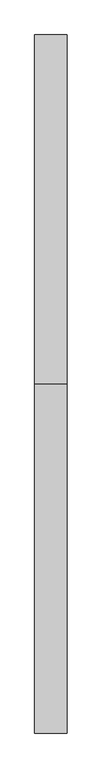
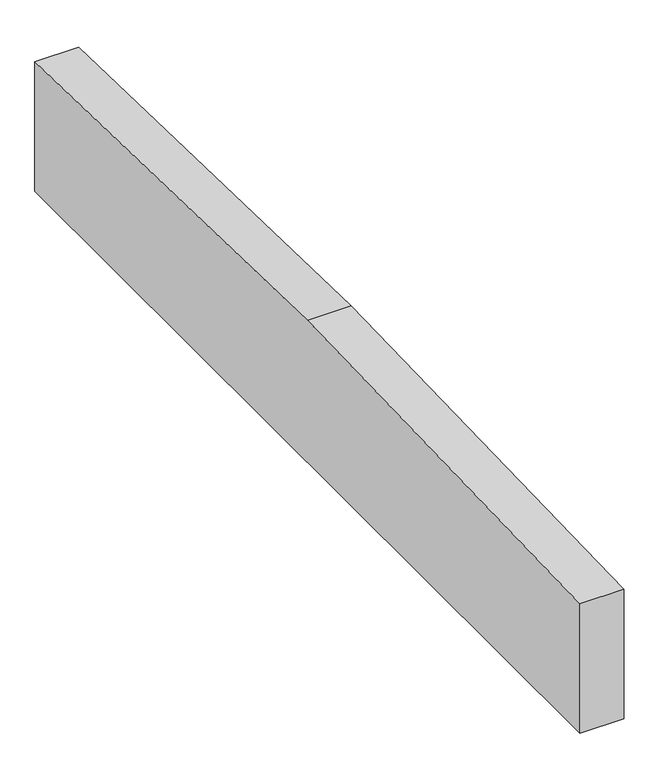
"""IFC4 building model written with IfcOpenShell, lengths in millimetres: proxy geometry, Mur garde grève C0 : mur garde grève."""

import ifcopenshell
import ifcopenshell.guid

model = None  # the IFC model being written
_history = None  # IfcOwnerHistory: only IFC2X3 demands one
_inside = {}  # id of a spatial element -> (the spatial element, [elements in it])
_under = {}  # id of a project, library or spatial element -> (it, [spatial elements below it])
_declared = {}  # id of a project -> (the project, [libraries it declares])
_typed = {}  # id of a type object -> (the type object, [elements of that type])
_made_of = {}  # id of a material, layer set ... -> (it, [elements and type objects made of it])


def new_model(schema):
    """Start an empty IFC model of exactly this schema.

    Asked for "IFC4X3", IfcOpenShell would pick the latest addendum, in which some entities
    have other attributes; the version numbers below select the first issue.
    IFC2X3 requires an IfcOwnerHistory on every rooted entity: one is made here for all.
    """
    global model, _history
    if schema == "IFC4X3":
        model = ifcopenshell.file(schema_version=(4, 3, 0, 0))
    else:
        model = ifcopenshell.file(schema=schema)
    _inside.clear()
    _under.clear()
    _declared.clear()
    _typed.clear()
    _made_of.clear()
    _history = None
    if model.schema == "IFC2X3":
        org = make("IfcOrganization", Name="unknown")
        user = make(
            "IfcPersonAndOrganization",
            ThePerson=make("IfcPerson", FamilyName="unknown"),
            TheOrganization=org,
        )
        app = make(
            "IfcApplication",
            ApplicationDeveloper=org,
            Version="unknown",
            ApplicationFullName="unknown",
            ApplicationIdentifier="unknown",
        )
        _history = make(
            "IfcOwnerHistory",
            OwningUser=user,
            OwningApplication=app,
            ChangeAction="ADDED",
            CreationDate=0,
        )
    return model


def make(cls, **values):
    """One entity of the class cls with the attributes given. An attribute that is None is left unset."""
    return model.create_entity(
        cls, **{name: value for name, value in values.items() if value is not None}
    )


def rooted(cls, **values):
    """An entity with a GlobalId (a new one), such as an element, a storey or a relation."""
    return make(cls, GlobalId=ifcopenshell.guid.new(), OwnerHistory=_history, **values)


def si_unit(unit_type, name, prefix=None):
    """IfcSIUnit, for example si_unit("LENGTHUNIT", "METRE", prefix="MILLI")."""
    return make("IfcSIUnit", UnitType=unit_type, Prefix=prefix, Name=name)


def assignment(units):
    """IfcUnitAssignment: the units of a project."""
    return None if units is None else make("IfcUnitAssignment", Units=units)


def point(xyz):
    """IfcCartesianPoint."""
    return None if xyz is None else make("IfcCartesianPoint", Coordinates=xyz)


def direction(xyz):
    """IfcDirection."""
    return None if xyz is None else make("IfcDirection", DirectionRatios=xyz)


def frame(location, z_axis=None, x_axis=None):
    """IfcAxis2Placement3D, a coordinate frame: its origin and axes. An axis left out is left unset."""
    return make(
        "IfcAxis2Placement3D",
        Location=point(location),
        Axis=direction(z_axis),
        RefDirection=direction(x_axis),
    )


def origin():
    """The frame at (0, 0, 0) with its axes left unset."""
    return frame((0.0, 0.0, 0.0))


def place(relative_to, where):
    """IfcLocalPlacement: puts the frame where relative to a parent placement (None: the world)."""
    return make(
        "IfcLocalPlacement", PlacementRelTo=relative_to, RelativePlacement=where
    )


def context(
    kind, dimensions, precision=None, world=None, true_north=None, identifier=None
):
    """IfcGeometricRepresentationContext, for example the 3D "Model" context."""
    return make(
        "IfcGeometricRepresentationContext",
        ContextIdentifier=identifier,
        ContextType=kind,
        CoordinateSpaceDimension=dimensions,
        Precision=precision,
        WorldCoordinateSystem=world,
        TrueNorth=true_north,
    )


def project(units=None, contexts=None):
    """IfcProject with its units and contexts."""
    return rooted(
        "IfcProject",
        Name="project",
        RepresentationContexts=contexts,
        UnitsInContext=assignment(units),
    )


def spatial(cls, under=None, at=None, **own):
    """A site, building, storey or space (cls), placed at a placement, below another one or the project."""
    s = rooted(cls, ObjectPlacement=at, **own)
    if under is not None:
        _under.setdefault(under.id(), (under, []))[1].append(s)
    return s


def polyline(points):
    """IfcPolyline through the points."""
    return make("IfcPolyline", Points=[point(p) for p in points])


def outline(outer, holes=None, kind="AREA"):
    """IfcArbitraryClosedProfileDef: a profile drawn as a closed curve; with holes, ...WithVoids."""
    if holes is None:
        return make("IfcArbitraryClosedProfileDef", ProfileType=kind, OuterCurve=outer)
    return make(
        "IfcArbitraryProfileDefWithVoids",
        ProfileType=kind,
        OuterCurve=outer,
        InnerCurves=holes,
    )


def extrude(swept, where, along, depth):
    """IfcExtrudedAreaSolid: the profile swept, set in the frame where, extruded along a direction by depth."""
    return make(
        "IfcExtrudedAreaSolid",
        SweptArea=swept,
        Position=where,
        ExtrudedDirection=direction(along),
        Depth=depth,
    )


def shape(context_of_items, identifier, shape_type, items):
    """IfcShapeRepresentation: the items that make up one representation, for example the "Body"."""
    return make(
        "IfcShapeRepresentation",
        ContextOfItems=context_of_items,
        RepresentationIdentifier=identifier,
        RepresentationType=shape_type,
        Items=items,
    )


def source(mapping_origin, context_of_items, identifier, shape_type, items):
    """IfcRepresentationMap: a shape defined once, which mapped items show again and again."""
    return make(
        "IfcRepresentationMap",
        MappingOrigin=mapping_origin,
        MappedRepresentation=shape(context_of_items, identifier, shape_type, items),
    )


def transform(
    local_origin,
    x_axis=None,
    y_axis=None,
    z_axis=None,
    scale=None,
    scale2=None,
    scale3=None,
    uniform=True,
):
    """IfcCartesianTransformationOperator3D, or its non-uniform kind. x_axis, y_axis, z_axis: its Axis1, 2, 3."""
    if uniform:
        return make(
            "IfcCartesianTransformationOperator3D",
            Axis1=direction(x_axis),
            Axis2=direction(y_axis),
            LocalOrigin=point(local_origin),
            Scale=scale,
            Axis3=direction(z_axis),
        )
    return make(
        "IfcCartesianTransformationOperator3DnonUniform",
        Axis1=direction(x_axis),
        Axis2=direction(y_axis),
        LocalOrigin=point(local_origin),
        Scale=scale,
        Axis3=direction(z_axis),
        Scale2=scale2,
        Scale3=scale3,
    )


def mapped(mapping_source, mapping_target):
    """IfcMappedItem: shows the shape of a source again, moved by a transform."""
    return make(
        "IfcMappedItem", MappingSource=mapping_source, MappingTarget=mapping_target
    )


def made_of(thing, what):
    """Note that an element or type object is made of a material, layer set ...; save() writes the relation."""
    if what is not None:
        _made_of.setdefault(what.id(), (what, []))[1].append(thing)
    return thing


def element(
    cls,
    number,
    at=None,
    inside=None,
    cuts=None,
    type_object=None,
    material=None,
    context=None,
    identifier="Body",
    shape_type=None,
    held_by="IfcProductDefinitionShape",
    body=None,
    shapes=None,
    **own,
):
    """One element of the class cls, such as IfcWall. Its Tag is "e" and its number.

    at: its placement. inside: the storey or other place that contains it. cuts: it is an
    opening in that element (IfcRelVoidsElement). A single representation is given by context,
    identifier, shape_type and body (its items); several are given by shapes. held_by: the class
    of the entity that holds the representations. save() writes the other relations.
    """
    e = rooted(cls, Tag="e%d" % number, ObjectPlacement=at, **own)
    if body is not None:
        shapes = [shape(context, identifier, shape_type, body)]
    if shapes is not None:
        e.Representation = make(held_by, Representations=shapes)
    if inside is not None:
        _inside.setdefault(inside.id(), (inside, []))[1].append(e)
    if cuts is not None:
        rooted(
            "IfcRelVoidsElement", RelatingBuildingElement=cuts, RelatedOpeningElement=e
        )
    if type_object is not None:
        _typed.setdefault(type_object.id(), (type_object, []))[1].append(e)
    return made_of(e, material)


def aggregate(whole, parts):
    """IfcRelAggregates: a whole, such as a stair, and the parts it consists of."""
    return rooted("IfcRelAggregates", RelatingObject=whole, RelatedObjects=parts)


def save(model, path):
    """Write the relations noted so far, then the file.

    IfcRelAggregates (storeys below a building ...), IfcRelContainedInSpatialStructure (elements
    in a storey), IfcRelDefinesByType, IfcRelAssociatesMaterial and IfcRelDeclares: one each for
    every whole, place, type object, material and project.
    """
    for whole, parts in _under.values():
        aggregate(whole, parts)
    for where, things in _inside.values():
        rooted(
            "IfcRelContainedInSpatialStructure",
            RelatedElements=things,
            RelatingStructure=where,
        )
    for kind, things in _typed.values():
        rooted("IfcRelDefinesByType", RelatedObjects=things, RelatingType=kind)
    for what, things in _made_of.values():
        rooted("IfcRelAssociatesMaterial", RelatedObjects=things, RelatingMaterial=what)
    for by, libraries in _declared.values():
        rooted("IfcRelDeclares", RelatingContext=by, RelatedDefinitions=libraries)
    model.write(path)


def generic_models_f0762fe5(model_context):
    return source(origin(), model_context, "Body", "SweptSolid", [
        extrude(outline(polyline([(2700.0, 4090.0), (-2700.0, 4090.0), (-2700.0, 4871.0), (0.0, 4946.0), (2700.0, 4871.0), (2700.0, 4090.0)])), frame((-7130.0, 0.0, 0.0), z_axis=(1.0, 0.0, 0.0), x_axis=(0.0, 1.0, 0.0)), (0.0, 0.0, 1.0), 250.0),
    ])


if __name__ == "__main__":
    model = new_model("IFC4")
    model_context = context("Model", 3, world=origin())
    ifc_project = project(units=[si_unit("LENGTHUNIT", "METRE", prefix="MILLI")], contexts=[model_context])
    site = spatial("IfcSite", under=ifc_project)
    building = spatial("IfcBuilding", under=site)
    placement = place(None, origin())
    generic_models_shape = generic_models_f0762fe5(model_context)
    element("IfcBuildingElementProxy", 1, Name="Mur garde grève C0 : mur garde grève", ObjectType="Mur garde grève C0 : mur garde grève", at=placement, inside=building, context=model_context, shape_type="MappedRepresentation", body=[
        mapped(generic_models_shape, transform((0.0, 0.0, 0.0), x_axis=(1.0, 0.0, 0.0), y_axis=(0.0, 1.0, 0.0), z_axis=(0.0, 0.0, 1.0))),
    ])
    save(model, "model.ifc")
